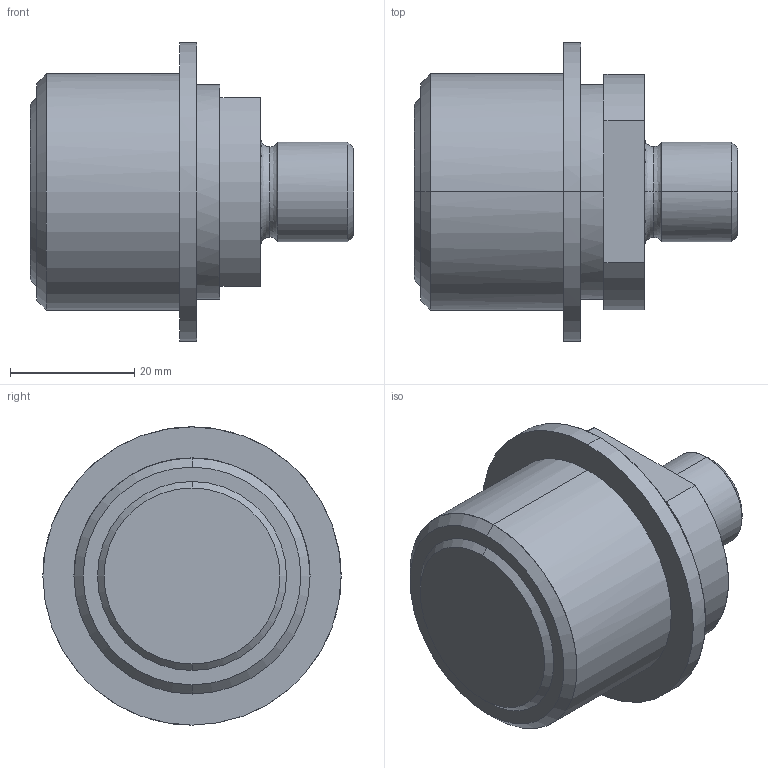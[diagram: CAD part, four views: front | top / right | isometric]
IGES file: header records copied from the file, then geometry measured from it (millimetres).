
Start section: START RECORD GO HERE.
Global section: file name: AGS3402M16.igs; native system: DASSAULT SYSTEMES CATIA V5 R20 - www.3ds.com; preprocessor: CATIA Version 5 Release 20 ; author: Utente; organization: NB04-ASUS; date: 20210221.202252; units: millimetre
Bounding box: 52 x 48 x 48 mm (x, y, z)
Surface area: 8855.3 mm2 (no closed solid volume)
Topology: 0 solids, 0 shells, 32 faces, 180 edges, 180 vertices
Faces by surface type: revolution 20, plane 12
